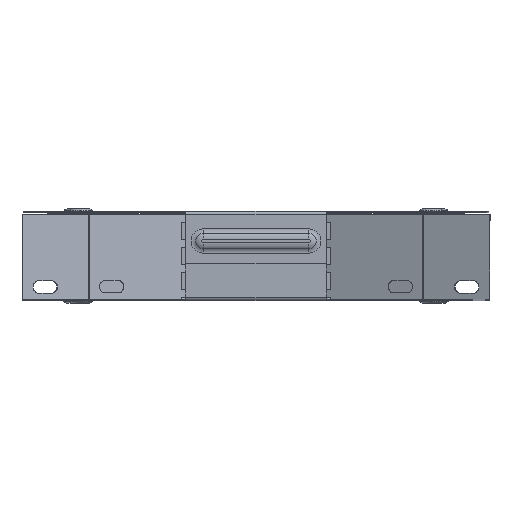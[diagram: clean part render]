
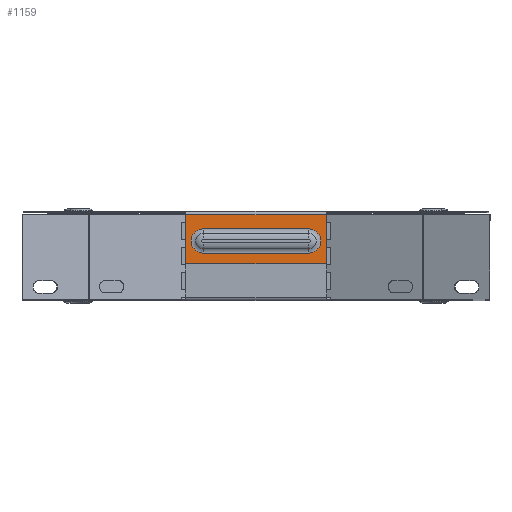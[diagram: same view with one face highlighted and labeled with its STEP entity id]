
A CAD part, top view. The second image highlights one B-rep face of the part: STEP entity #1159.
In plain terms, the highlighted planar face has unit normal (0, 0, 1).
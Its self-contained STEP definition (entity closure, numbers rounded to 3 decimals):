
#506 = CARTESIAN_POINT ( 'NONE',  ( 40., 20.8, 1.445 ) ) ;
#915 = LINE ( 'NONE', #506, #8382 ) ;
#949 = CARTESIAN_POINT ( 'NONE',  ( -40., 20.8, 1.445 ) ) ;
#1054 = VECTOR ( 'NONE', #12195, 1000. ) ;
#1159 = ADVANCED_FACE ( 'NONE', ( #9450, #2798 ), #1237, .F. ) ;
#1237 = PLANE ( 'NONE',  #15026 ) ;
#1510 = LINE ( 'NONE', #16216, #15863 ) ;
#1830 = VECTOR ( 'NONE', #2377, 1000. ) ;
#1873 = ORIENTED_EDGE ( 'NONE', *, *, #1915, .T. ) ;
#1915 = EDGE_CURVE ( 'NONE', #8170, #13664, #3351, .T. ) ;
#2159 = CARTESIAN_POINT ( 'NONE',  ( 40., 20.8, 1.445 ) ) ;
#2169 = ORIENTED_EDGE ( 'NONE', *, *, #3297, .F. ) ;
#2377 = DIRECTION ( 'NONE',  ( 1., 0., 0. ) ) ;
#2798 = FACE_OUTER_BOUND ( 'NONE', #12801, .T. ) ;
#3065 = VECTOR ( 'NONE', #6149, 1000. ) ;
#3297 = EDGE_CURVE ( 'NONE', #14554, #12580, #1510, .T. ) ;
#3351 = CIRCLE ( 'NONE', #13868, 6.917 ) ;
#3510 = CARTESIAN_POINT ( 'NONE',  ( -40., 49., 1.445 ) ) ;
#3759 = DIRECTION ( 'NONE',  ( 0., -1., 0. ) ) ;
#3762 = CARTESIAN_POINT ( 'NONE',  ( 0., 50.8, 1.445 ) ) ;
#3903 = EDGE_CURVE ( 'NONE', #3964, #8170, #7970, .T. ) ;
#3964 = VERTEX_POINT ( 'NONE', #8817 ) ;
#4190 = ORIENTED_EDGE ( 'NONE', *, *, #3903, .T. ) ;
#4613 = ORIENTED_EDGE ( 'NONE', *, *, #12476, .T. ) ;
#4882 = CARTESIAN_POINT ( 'NONE',  ( 30., 26.983, 1.445 ) ) ;
#5058 = EDGE_CURVE ( 'NONE', #15324, #12580, #10300, .T. ) ;
#5664 = CARTESIAN_POINT ( 'NONE',  ( 40., 49., 1.445 ) ) ;
#5817 = CARTESIAN_POINT ( 'NONE',  ( 40., 50., 1.445 ) ) ;
#5909 = ORIENTED_EDGE ( 'NONE', *, *, #5058, .T. ) ;
#6149 = DIRECTION ( 'NONE',  ( -1., 0., 0. ) ) ;
#6311 = VERTEX_POINT ( 'NONE', #12084 ) ;
#6976 = EDGE_CURVE ( 'NONE', #14554, #13991, #14490, .T. ) ;
#7500 = EDGE_CURVE ( 'NONE', #6311, #3964, #8526, .T. ) ;
#7540 = EDGE_LOOP ( 'NONE', ( #14360, #14057, #4190, #1873 ) ) ;
#7970 = LINE ( 'NONE', #4882, #3065 ) ;
#8023 = DIRECTION ( 'NONE',  ( 1., 0., 0. ) ) ;
#8127 = AXIS2_PLACEMENT_3D ( 'NONE', #11581, #15447, #10268 ) ;
#8170 = VERTEX_POINT ( 'NONE', #8383 ) ;
#8382 = VECTOR ( 'NONE', #8023, 1000. ) ;
#8383 = CARTESIAN_POINT ( 'NONE',  ( -30., 26.983, 1.445 ) ) ;
#8464 = EDGE_CURVE ( 'NONE', #13664, #6311, #9074, .T. ) ;
#8526 = CIRCLE ( 'NONE', #8127, 6.917 ) ;
#8817 = CARTESIAN_POINT ( 'NONE',  ( 30., 26.983, 1.445 ) ) ;
#8835 = CARTESIAN_POINT ( 'NONE',  ( -30., 33.9, 1.445 ) ) ;
#9074 = LINE ( 'NONE', #9825, #1830 ) ;
#9450 = FACE_BOUND ( 'NONE', #7540, .T. ) ;
#9738 = ORIENTED_EDGE ( 'NONE', *, *, #6976, .T. ) ;
#9825 = CARTESIAN_POINT ( 'NONE',  ( 30., 40.817, 1.445 ) ) ;
#9928 = DIRECTION ( 'NONE',  ( 1., 0., 0. ) ) ;
#10093 = DIRECTION ( 'NONE',  ( 0., 1., 0. ) ) ;
#10210 = DIRECTION ( 'NONE',  ( 0., 0., -1. ) ) ;
#10268 = DIRECTION ( 'NONE',  ( 0., 1., 0. ) ) ;
#10300 = LINE ( 'NONE', #5817, #1054 ) ;
#10315 = CARTESIAN_POINT ( 'NONE',  ( -30., 40.817, 1.445 ) ) ;
#11581 = CARTESIAN_POINT ( 'NONE',  ( 30., 33.9, 1.445 ) ) ;
#12084 = CARTESIAN_POINT ( 'NONE',  ( 30., 40.817, 1.445 ) ) ;
#12132 = CARTESIAN_POINT ( 'NONE',  ( -40., 20.8, 1.445 ) ) ;
#12195 = DIRECTION ( 'NONE',  ( 0., 1., 0. ) ) ;
#12476 = EDGE_CURVE ( 'NONE', #13991, #15324, #915, .T. ) ;
#12580 = VERTEX_POINT ( 'NONE', #5664 ) ;
#12801 = EDGE_LOOP ( 'NONE', ( #2169, #9738, #4613, #5909 ) ) ;
#13664 = VERTEX_POINT ( 'NONE', #10315 ) ;
#13868 = AXIS2_PLACEMENT_3D ( 'NONE', #8835, #10210, #10093 ) ;
#13991 = VERTEX_POINT ( 'NONE', #949 ) ;
#14057 = ORIENTED_EDGE ( 'NONE', *, *, #7500, .T. ) ;
#14360 = ORIENTED_EDGE ( 'NONE', *, *, #8464, .T. ) ;
#14490 = LINE ( 'NONE', #12132, #16258 ) ;
#14554 = VERTEX_POINT ( 'NONE', #3510 ) ;
#14982 = DIRECTION ( 'NONE',  ( 0., 0., -1. ) ) ;
#15026 = AXIS2_PLACEMENT_3D ( 'NONE', #3762, #14982, #16270 ) ;
#15324 = VERTEX_POINT ( 'NONE', #2159 ) ;
#15447 = DIRECTION ( 'NONE',  ( 0., 0., -1. ) ) ;
#15863 = VECTOR ( 'NONE', #9928, 1000. ) ;
#16216 = CARTESIAN_POINT ( 'NONE',  ( 0., 49., 1.445 ) ) ;
#16258 = VECTOR ( 'NONE', #3759, 1000. ) ;
#16270 = DIRECTION ( 'NONE',  ( 0., 1., 0. ) ) ;
